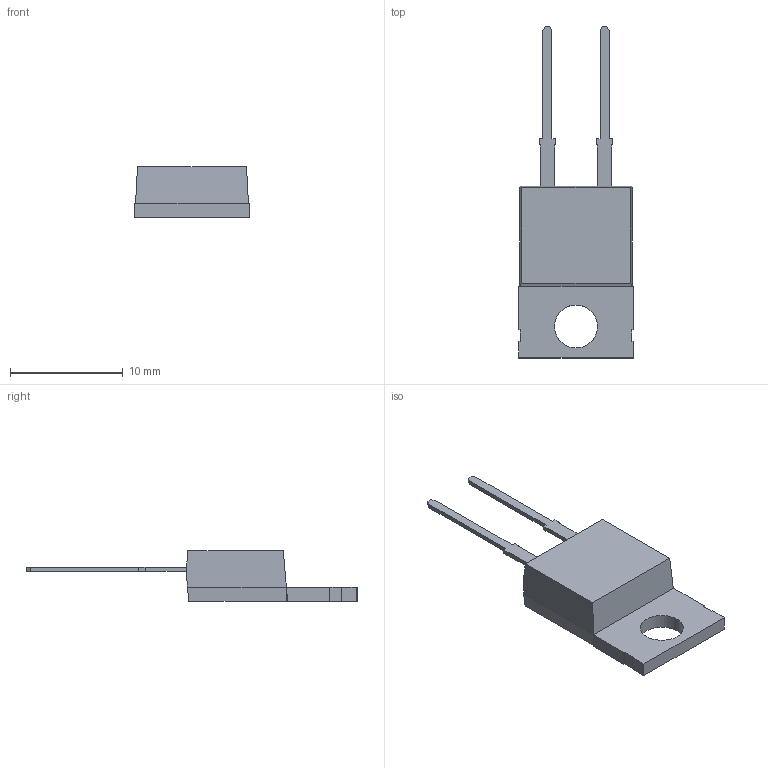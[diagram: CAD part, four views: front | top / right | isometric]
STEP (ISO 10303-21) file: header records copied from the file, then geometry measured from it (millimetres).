
FILE_DESCRIPTION(/* description */ (''),/* implementation_level */ '2;1');
FILE_NAME(/* name */ 'P220-TO220-.stp',/* time_stamp */ '2020-07-29T14:19:58+02:00',/* author */ (''),/* organization */ (''),/* preprocessor_version */ 'ST-DEVELOPER v14',/* originating_system */ 'SIEMENS PLM Software NX 8.0',/* authorisation */ '');
FILE_SCHEMA (('AUTOMOTIVE_DESIGN { 1 0 10303 214 3 1 1 1 }'));
Length unit declared in the file: millimetre
Products named in the file (1): P220-TO220_body2
Bounding box: 10.11 x 29.43 x 4.5 mm (x, y, z)
Volume: 462.5 mm3; surface area: 574.9 mm2
Topology: 4 solids, 4 shells, 66 faces, 184 edges, 126 vertices
Faces by surface type: plane 65, cylinder 1
Full cylindrical faces by diameter (mm): 3.81 x1
Entity records: 2219 total; most frequent: CARTESIAN_POINT 381, ORIENTED_EDGE 366, DIRECTION 319, EDGE_CURVE 183, LINE 181, VECTOR 181, VERTEX_POINT 126, EDGE_LOOP 69
